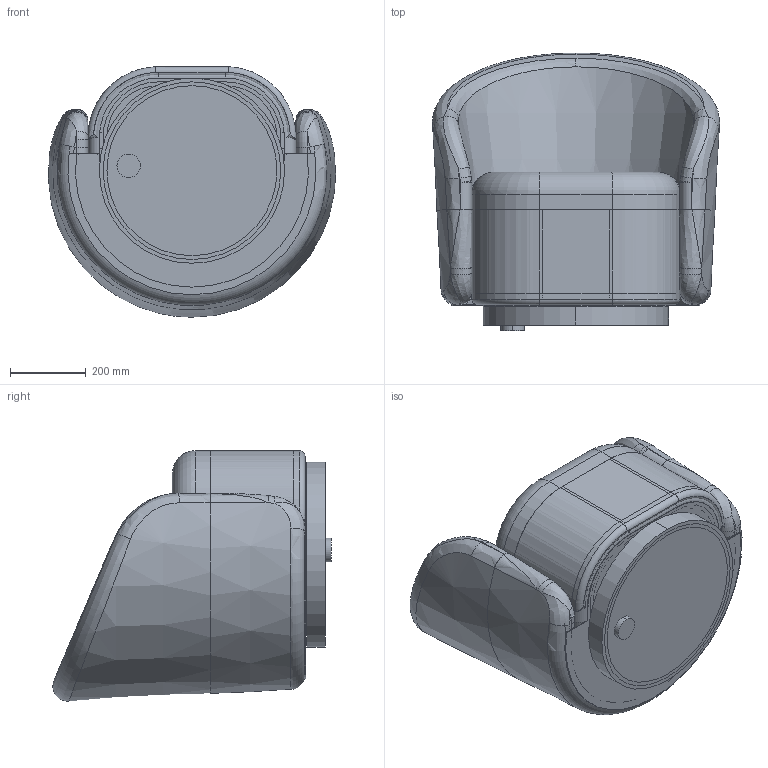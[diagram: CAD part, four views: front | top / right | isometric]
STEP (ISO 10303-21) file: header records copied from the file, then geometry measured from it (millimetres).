
FILE_DESCRIPTION (( 'STEP AP214' ), '1' );
FILE_NAME ('Fauteuil Curl.STEP', '2026-05-27T11:59:52', ( '' ), ( '' ), 'SwSTEP 2.0', 'SolidWorks 2021', '' );
FILE_SCHEMA (( 'AUTOMOTIVE_DESIGN' ));
Length unit declared in the file: millimetre
Products named in the file (1): Fauteuil Curl
Bounding box: 760.11 x 736.21 x 662.87 mm (x, y, z)
Volume: 139042194.7 mm3; surface area: 10660203.1 mm2
Topology: 35 solids, 35 shells, 362 faces, 820 edges, 527 vertices
Faces by surface type: plane 208, cylinder 101, bspline 32, torus 14, cone 5, sphere 2
Entity records: 15800 total; most frequent: CARTESIAN_POINT 4977, ORIENTED_EDGE 1640, DIRECTION 1628, EDGE_CURVE 820, AXIS2_PLACEMENT_3D 563, VERTEX_POINT 527, LINE 502, VECTOR 502
